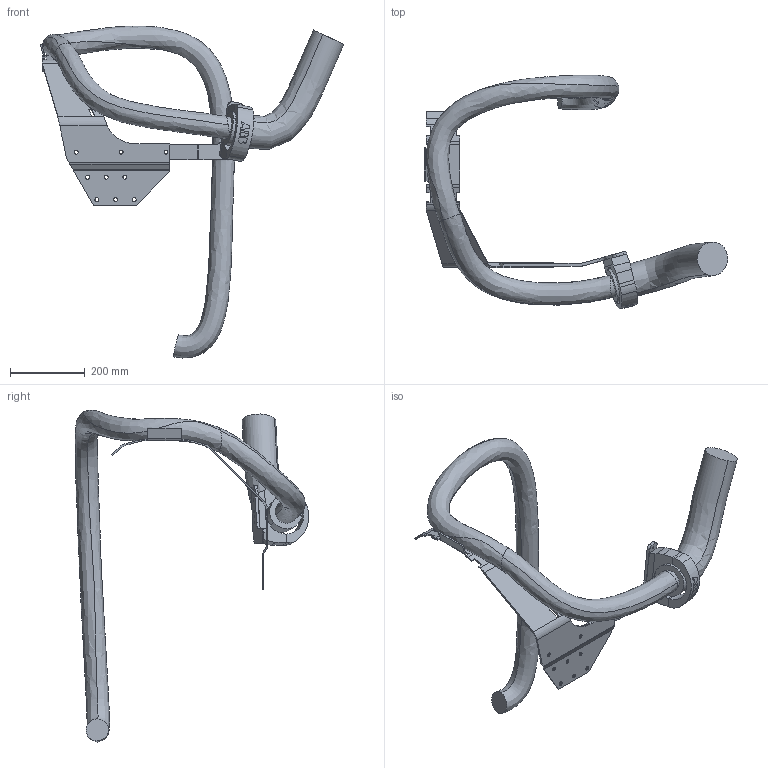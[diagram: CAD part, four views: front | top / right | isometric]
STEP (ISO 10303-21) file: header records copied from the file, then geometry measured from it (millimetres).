
FILE_DESCRIPTION (( 'STEP AP214' ), '1' );
FILE_NAME ('IRB6700-SW6_145-320_IRC5_rev01_LINK01_CABLE.STEP', '2016-02-17T11:02:35', ( 'ABB' ), ( 'ABB' ), 'SwSTEP 2.0', 'SolidWorks 2014', '' );
FILE_SCHEMA (( 'AUTOMOTIVE_DESIGN' ));
Length unit declared in the file: millimetre
Products named in the file (1): IRB6700-SW6_145-320_IRC5_rev01_LINK01_CABLE
Bounding box: 811.21 x 624.81 x 887.89 mm (x, y, z)
Volume: 9616745.5 mm3; surface area: 785707.4 mm2
Topology: 1 solids, 1 shells, 236 faces, 668 edges, 438 vertices
Faces by surface type: plane 132, cylinder 83, bspline 21
Entity records: 17486 total; most frequent: CARTESIAN_POINT 11402, ORIENTED_EDGE 1336, DIRECTION 1082, EDGE_CURVE 668, VERTEX_POINT 438, LINE 386, VECTOR 386, AXIS2_PLACEMENT_3D 348
